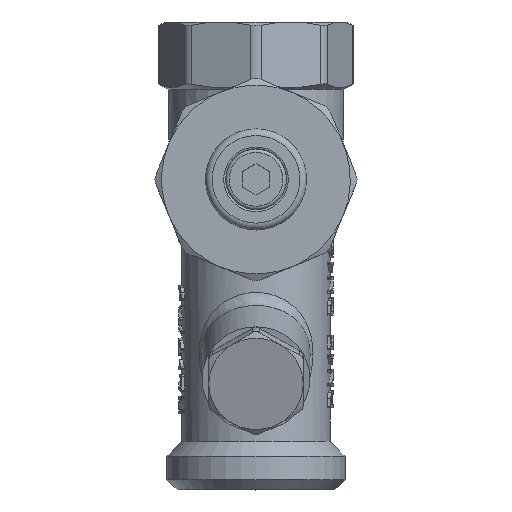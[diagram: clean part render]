
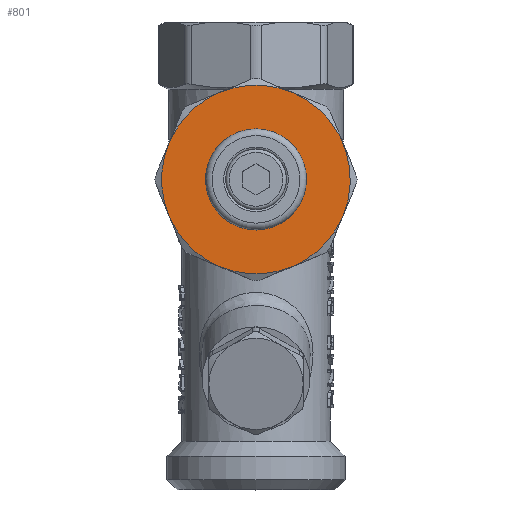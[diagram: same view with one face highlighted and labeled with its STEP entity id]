
A CAD part, top view. The second image highlights one B-rep face of the part: STEP entity #801.
In plain terms, the highlighted planar face has unit normal (0, 0, 1).
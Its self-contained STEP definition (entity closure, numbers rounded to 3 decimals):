
#801=ADVANCED_FACE('',(#1850,#1852),#1854,.T.);
#1850=FACE_BOUND('',#1851,.T.);
#1851=EDGE_LOOP('',(#8135,#8136,#8137,#8138,#8139,#8140));
#1852=FACE_BOUND('',#1853,.T.);
#1853=EDGE_LOOP('',(#8141));
#1854=PLANE('',#1855);
#1855=AXIS2_PLACEMENT_3D('',#1856,#1857,#1858);
#1856=CARTESIAN_POINT('',(0.,0.,30.5));
#1857=DIRECTION('',(0.,0.,1.));
#1858=DIRECTION('',(-1.,0.,0.));
#8135=ORIENTED_EDGE('',*,*,#12321,.T.);
#8136=ORIENTED_EDGE('',*,*,#12322,.T.);
#8137=ORIENTED_EDGE('',*,*,#12323,.T.);
#8138=ORIENTED_EDGE('',*,*,#12324,.T.);
#8139=ORIENTED_EDGE('',*,*,#12325,.T.);
#8140=ORIENTED_EDGE('',*,*,#12326,.T.);
#8141=ORIENTED_EDGE('',*,*,#12308,.F.);
#12308=EDGE_CURVE('',#14147,#14147,#14148,.F.);
#12321=EDGE_CURVE('',#14167,#14168,#14169,.F.);
#12322=EDGE_CURVE('',#14168,#14170,#14171,.F.);
#12323=EDGE_CURVE('',#14170,#14172,#14173,.F.);
#12324=EDGE_CURVE('',#14172,#14174,#14175,.F.);
#12325=EDGE_CURVE('',#14174,#14176,#14177,.F.);
#12326=EDGE_CURVE('',#14176,#14167,#14178,.F.);
#14147=VERTEX_POINT('',#17363);
#14148=CIRCLE('',#17364,7.5);
#14167=VERTEX_POINT('',#17410);
#14168=VERTEX_POINT('',#17411);
#14169=CIRCLE('',#17412,14.);
#14170=VERTEX_POINT('',#17416);
#14171=CIRCLE('',#17417,14.);
#14172=VERTEX_POINT('',#17421);
#14173=CIRCLE('',#17422,14.);
#14174=VERTEX_POINT('',#17426);
#14175=CIRCLE('',#17427,14.);
#14176=VERTEX_POINT('',#17431);
#14177=CIRCLE('',#17432,14.);
#14178=CIRCLE('',#17436,14.);
#17363=CARTESIAN_POINT('',(0.,7.5,30.5));
#17364=AXIS2_PLACEMENT_3D('',#17365,#17366,#17367);
#17365=CARTESIAN_POINT('',(0.,0.,30.5));
#17366=DIRECTION('',(0.,0.,-1.));
#17367=DIRECTION('',(0.,1.,0.));
#17410=CARTESIAN_POINT('',(-12.934,5.358,30.5));
#17411=CARTESIAN_POINT('',(-12.934,-5.358,30.5));
#17412=AXIS2_PLACEMENT_3D('',#17413,#17414,#17415);
#17413=CARTESIAN_POINT('',(0.,0.,30.5));
#17414=DIRECTION('',(0.,0.,-1.));
#17415=DIRECTION('',(-0.924,-0.383,0.));
#17416=CARTESIAN_POINT('',(-5.358,-12.934,30.5));
#17417=AXIS2_PLACEMENT_3D('',#17418,#17419,#17420);
#17418=CARTESIAN_POINT('',(0.,0.,30.5));
#17419=DIRECTION('',(0.,0.,-1.));
#17420=DIRECTION('',(-0.383,-0.924,0.));
#17421=CARTESIAN_POINT('',(5.358,-12.934,30.5));
#17422=AXIS2_PLACEMENT_3D('',#17423,#17424,#17425);
#17423=CARTESIAN_POINT('',(0.,0.,30.5));
#17424=DIRECTION('',(0.,0.,-1.));
#17425=DIRECTION('',(0.383,-0.924,0.));
#17426=CARTESIAN_POINT('',(12.934,-5.358,30.5));
#17427=AXIS2_PLACEMENT_3D('',#17428,#17429,#17430);
#17428=CARTESIAN_POINT('',(0.,0.,30.5));
#17429=DIRECTION('',(0.,0.,-1.));
#17430=DIRECTION('',(0.924,-0.383,0.));
#17431=CARTESIAN_POINT('',(-5.358,12.934,30.5));
#17432=AXIS2_PLACEMENT_3D('',#17433,#17434,#17435);
#17433=CARTESIAN_POINT('',(0.,0.,30.5));
#17434=DIRECTION('',(0.,0.,-1.));
#17435=DIRECTION('',(-0.383,0.924,0.));
#17436=AXIS2_PLACEMENT_3D('',#17437,#17438,#17439);
#17437=CARTESIAN_POINT('',(0.,0.,30.5));
#17438=DIRECTION('',(0.,0.,-1.));
#17439=DIRECTION('',(-0.924,0.383,0.));
